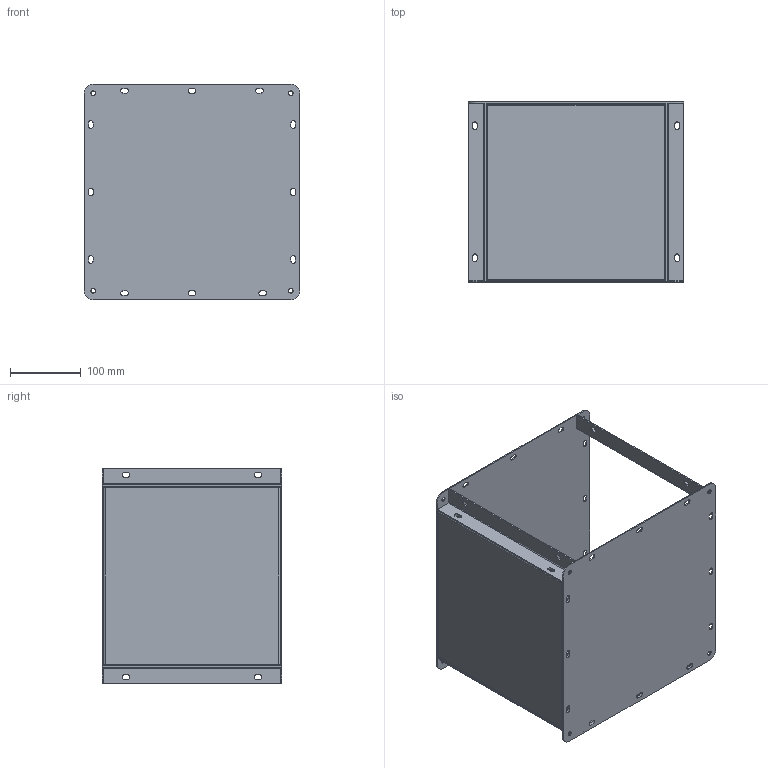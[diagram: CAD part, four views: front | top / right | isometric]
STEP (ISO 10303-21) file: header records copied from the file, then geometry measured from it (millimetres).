
FILE_DESCRIPTION((''),'1');
FILE_NAME('5','2001-04-18T',('jlue'),(''),'PRO/ENGINEER BY PARAMETRIC TECHNOLOGY CORPORATION, 9846','PRO/ENGINEER BY PARAMETRIC TECHNOLOGY CORPORATION, 9846','');
FILE_SCHEMA(('CONFIG_CONTROL_DESIGN'));
Length unit declared in the file: inch
Products named in the file (1): 5
Bounding box: 304.8 x 254 x 304.8 mm (x, y, z)
Surface area: 730526.7 mm2 (no closed solid volume)
Topology: 0 solids, 0 shells, 276 faces, 1652 edges, 1656 vertices
Faces by surface type: plane 148, cylinder 128
Entity records: 8130 total; most frequent: COMPOSITE_CURVE_SEGMENT 1648, DIRECTION 1628, CARTESIAN_POINT 1128, TRIMMED_CURVE 820, VECTOR 564, LINE 564, AXIS2_PLACEMENT_3D 532, CURVE_BOUNDED_SURFACE 276
